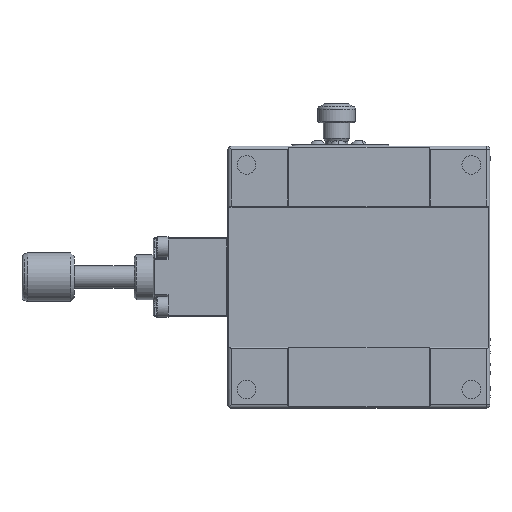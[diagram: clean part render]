
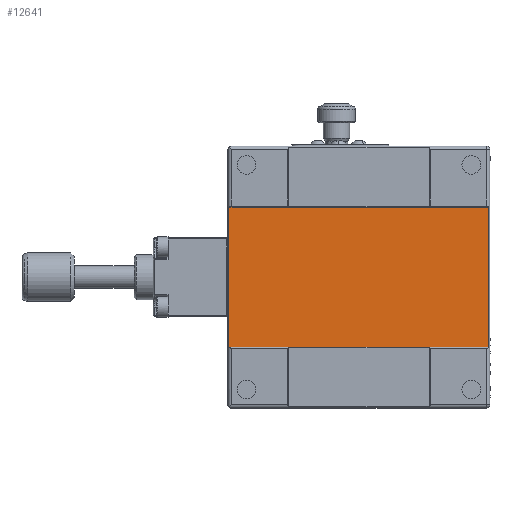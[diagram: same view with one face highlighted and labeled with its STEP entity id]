
A CAD part, front view. The second image highlights one B-rep face of the part: STEP entity #12641.
In plain terms, the highlighted planar face has unit normal (0, -1, 0).
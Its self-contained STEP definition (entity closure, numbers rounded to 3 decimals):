
#2876 = EDGE_LOOP ( 'NONE', ( #36456, #21657, #4948, #9725 ) ) ;
#4208 = PLANE ( 'NONE',  #10237 ) ;
#4948 = ORIENTED_EDGE ( 'NONE', *, *, #8791, .T. ) ;
#7482 = DIRECTION ( 'NONE',  ( 0., 1., 0. ) ) ;
#8217 = CARTESIAN_POINT ( 'NONE',  ( -38.586, -5.708, 18.7 ) ) ;
#8679 = CARTESIAN_POINT ( 'NONE',  ( 30.842, -5.708, -18.7 ) ) ;
#8791 = EDGE_CURVE ( 'NONE', #14742, #12348, #17301, .T. ) ;
#9216 = LINE ( 'NONE', #15969, #26669 ) ;
#9725 = ORIENTED_EDGE ( 'NONE', *, *, #41134, .T. ) ;
#10237 = AXIS2_PLACEMENT_3D ( 'NONE', #23831, #7482, #30451 ) ;
#10860 = CARTESIAN_POINT ( 'NONE',  ( -38.586, -5.708, 18.7 ) ) ;
#11965 = FACE_OUTER_BOUND ( 'NONE', #2876, .T. ) ;
#11986 = DIRECTION ( 'NONE',  ( 0., 0., 1. ) ) ;
#12348 = VERTEX_POINT ( 'NONE', #10860 ) ;
#12641 = ADVANCED_FACE ( 'NONE', ( #11965 ), #4208, .F. ) ;
#13516 = CARTESIAN_POINT ( 'NONE',  ( 30.842, -5.708, 18.7 ) ) ;
#14671 = EDGE_CURVE ( 'NONE', #34928, #34615, #9216, .T. ) ;
#14742 = VERTEX_POINT ( 'NONE', #13516 ) ;
#15969 = CARTESIAN_POINT ( 'NONE',  ( 31.128, -5.708, -18.7 ) ) ;
#17301 = LINE ( 'NONE', #23725, #41383 ) ;
#19559 = CARTESIAN_POINT ( 'NONE',  ( 30.842, -5.708, -18.7 ) ) ;
#19662 = LINE ( 'NONE', #8217, #36054 ) ;
#20426 = DIRECTION ( 'NONE',  ( -1., 0., 0. ) ) ;
#21657 = ORIENTED_EDGE ( 'NONE', *, *, #30658, .T. ) ;
#23725 = CARTESIAN_POINT ( 'NONE',  ( 31.128, -5.708, 18.7 ) ) ;
#23728 = LINE ( 'NONE', #8679, #32443 ) ;
#23831 = CARTESIAN_POINT ( 'NONE',  ( 31.128, -5.708, 18.7 ) ) ;
#24834 = DIRECTION ( 'NONE',  ( 0., 0., -1. ) ) ;
#26669 = VECTOR ( 'NONE', #32305, 1000. ) ;
#30451 = DIRECTION ( 'NONE',  ( 0., 0., 1. ) ) ;
#30658 = EDGE_CURVE ( 'NONE', #34928, #14742, #23728, .T. ) ;
#32305 = DIRECTION ( 'NONE',  ( -1., 0., 0. ) ) ;
#32443 = VECTOR ( 'NONE', #11986, 1000. ) ;
#34615 = VERTEX_POINT ( 'NONE', #37527 ) ;
#34928 = VERTEX_POINT ( 'NONE', #19559 ) ;
#36054 = VECTOR ( 'NONE', #24834, 1000. ) ;
#36456 = ORIENTED_EDGE ( 'NONE', *, *, #14671, .F. ) ;
#37527 = CARTESIAN_POINT ( 'NONE',  ( -38.586, -5.708, -18.7 ) ) ;
#41134 = EDGE_CURVE ( 'NONE', #12348, #34615, #19662, .T. ) ;
#41383 = VECTOR ( 'NONE', #20426, 1000. ) ;
